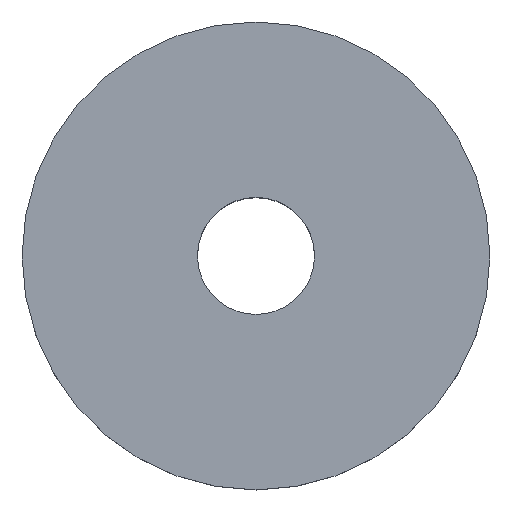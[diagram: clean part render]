
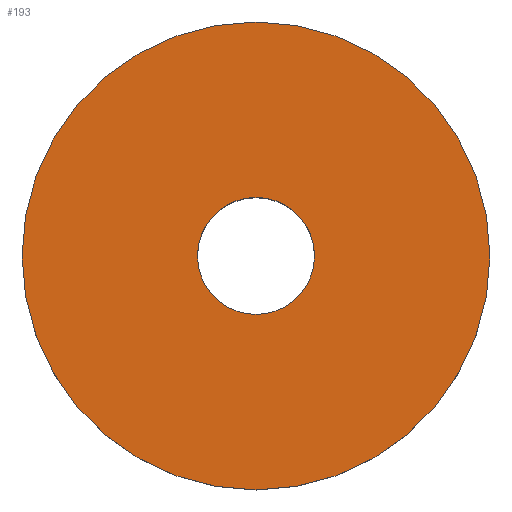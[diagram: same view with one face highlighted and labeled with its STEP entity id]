
A CAD part, top view. The second image highlights one B-rep face of the part: STEP entity #193.
In plain terms, the highlighted planar face has unit normal (0, 0, 1).
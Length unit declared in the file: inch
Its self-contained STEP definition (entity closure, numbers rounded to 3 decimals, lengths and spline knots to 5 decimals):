
#90=CARTESIAN_POINT('',(0.0,-0.125,0.));
#91=VERTEX_POINT('',#90);
#92=CARTESIAN_POINT('',(0.0,0.0,0.));
#93=DIRECTION('',(0.0,0.0,1.0));
#94=DIRECTION('',(0.0,-1.0,0.0));
#95=AXIS2_PLACEMENT_3D('',#92,#93,#94);
#96=CIRCLE('',#95,0.125);
#97=EDGE_CURVE('',#91,#91,#96,.T.);
#167=CARTESIAN_POINT('',(0.0,-0.5,0.));
#168=VERTEX_POINT('',#167);
#169=CARTESIAN_POINT('',(0.0,0.0,0.));
#170=DIRECTION('',(0.0,0.0,1.0));
#171=DIRECTION('',(0.0,-1.0,0.0));
#172=AXIS2_PLACEMENT_3D('',#169,#170,#171);
#173=CIRCLE('',#172,0.5);
#174=EDGE_CURVE('',#168,#168,#173,.T.);
#182=CARTESIAN_POINT('',(0.0,-0.3125,0.));
#183=DIRECTION('',(0.0,0.0,1.0));
#184=DIRECTION('',(1.0,0.0,0.0));
#185=AXIS2_PLACEMENT_3D('',#182,#183,#184);
#186=PLANE('',#185);
#187=ORIENTED_EDGE('',*,*,#174,.T.);
#188=EDGE_LOOP('',(#187));
#189=FACE_OUTER_BOUND('',#188,.T.);
#190=ORIENTED_EDGE('',*,*,#97,.F.);
#191=EDGE_LOOP('',(#190));
#192=FACE_BOUND('',#191,.T.);
#193=ADVANCED_FACE('',(#189,#192),#186,.T.);
